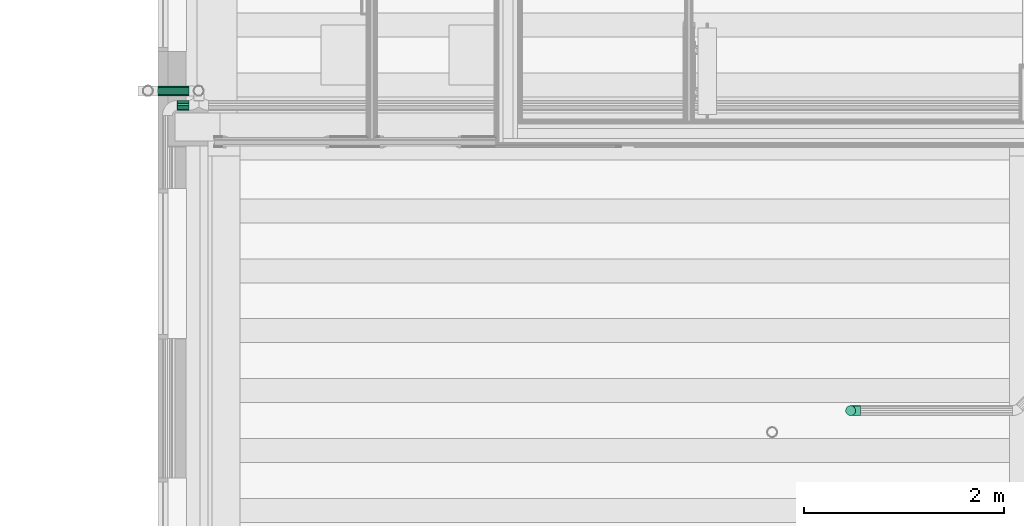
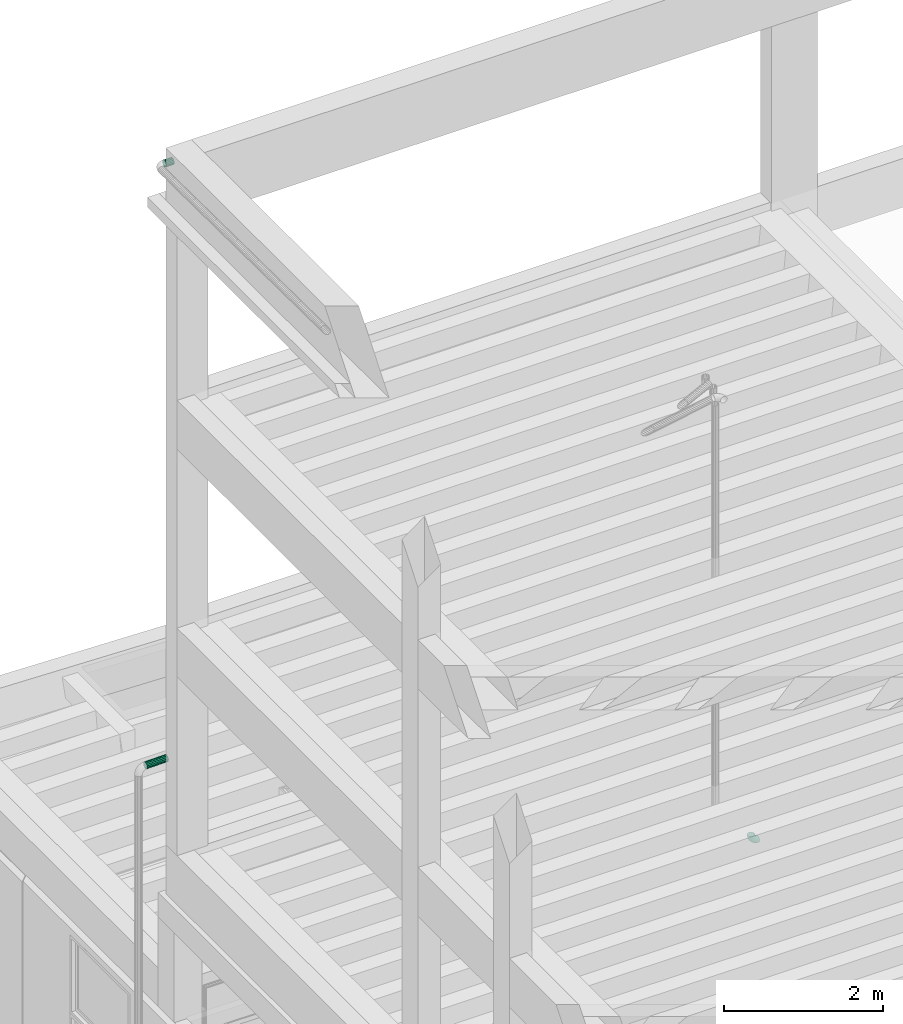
# One storey, part 76 of 106: 2 flow segments, 1 flow fitting.
"""IFC2X3 building model written with IfcOpenShell, lengths in metres."""

from ifc_helpers import new_model, entity, si_unit, converted_unit, derived_unit, money_unit, direction, frame, origin_with_axes, place, context, subcontext, project, spatial, open_shell, faceted_brep, surface_model, material, type_object, element, save


model = new_model("IFC2X3")

# Units and contexts
model_context = context("Model", 3, precision=1e-05, world=origin_with_axes(), true_north=direction((0.0, 1.0)))
body_context = subcontext(model_context, "Body", "Model", "MODEL_VIEW", scale=1.0)
ifc_project = project(units=[si_unit("LENGTHUNIT", "METRE"), si_unit("AREAUNIT", "SQUARE_METRE"), si_unit("VOLUMEUNIT", "CUBIC_METRE"), si_unit("ABSORBEDDOSEUNIT", "GRAY"), si_unit("AMOUNTOFSUBSTANCEUNIT", "MOLE"), si_unit("DOSEEQUIVALENTUNIT", "SIEVERT"), si_unit("ELECTRICCAPACITANCEUNIT", "FARAD"), si_unit("ELECTRICCHARGEUNIT", "COULOMB"), si_unit("ELECTRICCONDUCTANCEUNIT", "SIEMENS"), si_unit("ELECTRICCURRENTUNIT", "AMPERE"), si_unit("ELECTRICRESISTANCEUNIT", "OHM"), si_unit("ELECTRICVOLTAGEUNIT", "VOLT"), si_unit("ENERGYUNIT", "JOULE"), si_unit("FORCEUNIT", "NEWTON"), si_unit("FREQUENCYUNIT", "HERTZ"), si_unit("ILLUMINANCEUNIT", "LUX"), si_unit("INDUCTANCEUNIT", "HENRY"), si_unit("LUMINOUSFLUXUNIT", "LUMEN"), si_unit("LUMINOUSINTENSITYUNIT", "CANDELA"), si_unit("MAGNETICFLUXDENSITYUNIT", "TESLA"), si_unit("MAGNETICFLUXUNIT", "WEBER"), si_unit("MASSUNIT", "GRAM"), converted_unit("PLANEANGLEUNIT", "degree", entity("IfcReal", 0.0174532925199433), si_unit("PLANEANGLEUNIT", "RADIAN"), dimensions=[0, 0, 0, 0, 0, 0, 0]), si_unit("POWERUNIT", "WATT"), si_unit("PRESSUREUNIT", "PASCAL"), si_unit("RADIOACTIVITYUNIT", "BECQUEREL"), si_unit("SOLIDANGLEUNIT", "STERADIAN"), si_unit("THERMODYNAMICTEMPERATUREUNIT", "KELVIN"), si_unit("TIMEUNIT", "SECOND"), derived_unit("ACCELERATIONUNIT", [(si_unit("LENGTHUNIT", "METRE"), 1), (si_unit("TIMEUNIT", "SECOND"), -2)]), derived_unit("ANGULARVELOCITYUNIT", [(converted_unit("PLANEANGLEUNIT", "degree", entity("IfcReal", 0.0174532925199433), si_unit("PLANEANGLEUNIT", "RADIAN"), dimensions=[0, 0, 0, 0, 0, 0, 0]), 1), (si_unit("TIMEUNIT", "SECOND"), -1)]), derived_unit("CURVATUREUNIT", [(converted_unit("PLANEANGLEUNIT", "degree", entity("IfcReal", 0.0174532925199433), si_unit("PLANEANGLEUNIT", "RADIAN"), dimensions=[0, 0, 0, 0, 0, 0, 0]), 1), (si_unit("LENGTHUNIT", "METRE"), -1)]), derived_unit("DYNAMICVISCOSITYUNIT", [(si_unit("PRESSUREUNIT", "PASCAL"), 1), (si_unit("TIMEUNIT", "SECOND"), 1)]), derived_unit("HEATFLUXDENSITYUNIT", [(si_unit("POWERUNIT", "WATT"), 1), (si_unit("LENGTHUNIT", "METRE"), -2)]), derived_unit("HEATINGVALUEUNIT", [(si_unit("ENERGYUNIT", "JOULE"), 1), (si_unit("MASSUNIT", "GRAM"), -1)]), derived_unit("INTEGERCOUNTRATEUNIT", [(si_unit("TIMEUNIT", "SECOND"), -1)]), derived_unit("IONCONCENTRATIONUNIT", [(si_unit("MASSUNIT", "GRAM"), 1), (si_unit("VOLUMEUNIT", "CUBIC_METRE"), -1)]), derived_unit("ISOTHERMALMOISTURECAPACITYUNIT", [(si_unit("VOLUMEUNIT", "CUBIC_METRE"), 1), (si_unit("MASSUNIT", "GRAM"), -1)]), derived_unit("KINEMATICVISCOSITYUNIT", [(si_unit("AREAUNIT", "SQUARE_METRE"), 1), (si_unit("TIMEUNIT", "SECOND"), -1)]), derived_unit("LINEARFORCEUNIT", [(si_unit("FORCEUNIT", "NEWTON"), 1), (si_unit("LENGTHUNIT", "METRE"), -1)]), derived_unit("LINEARMOMENTUNIT", [(si_unit("FORCEUNIT", "NEWTON"), 1), (si_unit("LENGTHUNIT", "METRE"), -1)]), derived_unit("LINEARSTIFFNESSUNIT", [(si_unit("FORCEUNIT", "NEWTON"), 1), (si_unit("LENGTHUNIT", "METRE"), -1)]), derived_unit("LINEARVELOCITYUNIT", [(si_unit("LENGTHUNIT", "METRE"), 1), (si_unit("TIMEUNIT", "SECOND"), -1)]), derived_unit("LUMINOUSINTENSITYDISTRIBUTIONUNIT", [(si_unit("LUMINOUSINTENSITYUNIT", "CANDELA"), 1), (si_unit("LUMINOUSFLUXUNIT", "LUMEN"), -1)]), derived_unit("MASSDENSITYUNIT", [(si_unit("MASSUNIT", "GRAM"), 1), (si_unit("VOLUMEUNIT", "CUBIC_METRE"), -1)]), derived_unit("MASSFLOWRATEUNIT", [(si_unit("MASSUNIT", "GRAM"), 1), (si_unit("TIMEUNIT", "SECOND"), -1)]), derived_unit("MASSPERLENGTHUNIT", [(si_unit("MASSUNIT", "GRAM"), 1), (si_unit("LENGTHUNIT", "METRE"), -1)]), derived_unit("MODULUSOFELASTICITYUNIT", [(si_unit("FORCEUNIT", "NEWTON"), 1), (si_unit("AREAUNIT", "SQUARE_METRE"), -1)]), derived_unit("MODULUSOFLINEARSUBGRADEREACTIONUNIT", [(si_unit("FORCEUNIT", "NEWTON"), 1), (si_unit("LENGTHUNIT", "METRE"), -2)]), derived_unit("MODULUSOFROTATIONALSUBGRADEREACTIONUNIT", [(si_unit("FORCEUNIT", "NEWTON"), 1), (si_unit("LENGTHUNIT", "METRE"), 1)]), derived_unit("MODULUSOFSUBGRADEREACTIONUNIT", [(si_unit("FORCEUNIT", "NEWTON"), 1), (si_unit("VOLUMEUNIT", "CUBIC_METRE"), -1)]), derived_unit("MOISTUREDIFFUSIVITYUNIT", [(si_unit("VOLUMEUNIT", "CUBIC_METRE"), 1), (si_unit("TIMEUNIT", "SECOND"), -1)]), derived_unit("MOLECULARWEIGHTUNIT", [(si_unit("MASSUNIT", "GRAM"), 1), (si_unit("AMOUNTOFSUBSTANCEUNIT", "MOLE"), -1)]), derived_unit("PLANARFORCEUNIT", [(si_unit("FORCEUNIT", "NEWTON"), 1), (si_unit("LENGTHUNIT", "METRE"), -2)]), derived_unit("ROTATIONALFREQUENCYUNIT", [(si_unit("TIMEUNIT", "SECOND"), -1)]), derived_unit("ROTATIONALMASSUNIT", [(si_unit("MASSUNIT", "GRAM"), 1), (si_unit("LENGTHUNIT", "METRE"), 2)]), derived_unit("ROTATIONALSTIFFNESSUNIT", [(si_unit("FORCEUNIT", "NEWTON"), 1), (si_unit("LENGTHUNIT", "METRE"), 1), (converted_unit("PLANEANGLEUNIT", "degree", entity("IfcReal", 0.0174532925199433), si_unit("PLANEANGLEUNIT", "RADIAN"), dimensions=[0, 0, 0, 0, 0, 0, 0]), -1)]), derived_unit("SECTIONAREAINTEGRALUNIT", [(si_unit("LENGTHUNIT", "METRE"), 5)]), derived_unit("SECTIONMODULUSUNIT", [(si_unit("LENGTHUNIT", "METRE"), 3)]), derived_unit("SHEARMODULUSUNIT", [(si_unit("FORCEUNIT", "NEWTON"), 1), (si_unit("AREAUNIT", "SQUARE_METRE"), -1)]), derived_unit("SOUNDPOWERUNIT", [(si_unit("ENERGYUNIT", "JOULE"), 1), (si_unit("TIMEUNIT", "SECOND"), -1)]), derived_unit("SPECIFICHEATCAPACITYUNIT", [(si_unit("FORCEUNIT", "NEWTON"), 1), (si_unit("MASSUNIT", "GRAM"), -1), (si_unit("THERMODYNAMICTEMPERATUREUNIT", "KELVIN"), -1)]), derived_unit("TEMPERATUREGRADIENTUNIT", [(si_unit("THERMODYNAMICTEMPERATUREUNIT", "KELVIN"), 1), (si_unit("LENGTHUNIT", "METRE"), -1)]), derived_unit("THERMALADMITTANCEUNIT", [(si_unit("POWERUNIT", "WATT"), 1), (si_unit("AREAUNIT", "SQUARE_METRE"), -1), (si_unit("THERMODYNAMICTEMPERATUREUNIT", "KELVIN"), -1)]), derived_unit("THERMALCONDUCTANCEUNIT", [(si_unit("POWERUNIT", "WATT"), 1), (si_unit("LENGTHUNIT", "METRE"), -1), (si_unit("THERMODYNAMICTEMPERATUREUNIT", "KELVIN"), -1)]), derived_unit("THERMALEXPANSIONCOEFFICIENTUNIT", [(si_unit("THERMODYNAMICTEMPERATUREUNIT", "KELVIN"), -1)]), derived_unit("THERMALRESISTANCEUNIT", [(si_unit("AREAUNIT", "SQUARE_METRE"), 1), (si_unit("POWERUNIT", "WATT"), -1)]), derived_unit("THERMALTRANSMITTANCEUNIT", [(si_unit("POWERUNIT", "WATT"), 1), (si_unit("AREAUNIT", "SQUARE_METRE"), -1), (si_unit("THERMODYNAMICTEMPERATUREUNIT", "KELVIN"), -1)]), derived_unit("TORQUEUNIT", [(si_unit("FORCEUNIT", "NEWTON"), 1), (si_unit("LENGTHUNIT", "METRE"), 1)]), derived_unit("VAPORPERMEABILITYUNIT", [(si_unit("MASSUNIT", "GRAM"), 1), (si_unit("TIMEUNIT", "SECOND"), -1)]), derived_unit("VOLUMETRICFLOWRATEUNIT", [(si_unit("VOLUMEUNIT", "CUBIC_METRE"), 1), (si_unit("TIMEUNIT", "SECOND"), -1)]), derived_unit("WARPINGCONSTANTUNIT", [(si_unit("LENGTHUNIT", "METRE"), 6)]), derived_unit("WARPINGMOMENTUNIT", [(si_unit("FORCEUNIT", "NEWTON"), 1), (si_unit("LENGTHUNIT", "METRE"), 2)]), money_unit("GBP")], contexts=[model_context])

# Site, building, storey
site_placement = place(None, origin_with_axes())
site = spatial("IfcSite", under=ifc_project, at=site_placement, Name="Site", CompositionType="ELEMENT")
building_placement = place(site_placement, origin_with_axes())
building = spatial("IfcBuilding", under=site, at=building_placement, Name="Building01", CompositionType="ELEMENT")
storey_placement = place(building_placement, origin_with_axes())
storey = spatial("IfcBuildingStorey", under=building, at=storey_placement, Name="GF", CompositionType="ELEMENT", Elevation=0.0)

# Flow segments
ifc_material = material(Name="M_BSUK_ColdWater")
pipe_segment_type = type_object("IfcPipeSegmentType", Name="M-BmpStraightpipe-DefaultPipe", PredefinedType="RIGIDSEGMENT")
flow_segment_1_placement = place(storey_placement, frame((0.310496, 14.95, 6.24673), z_axis=(0.0, -1.0, 0.0), x_axis=(-0.99980004, 0.0, -0.01999682)))
element("IfcFlowSegment", 1, at=flow_segment_1_placement, inside=storey, type_object=pipe_segment_type, material=ifc_material, Name="M-BmpStraightpipe-DefaultPipe", ObjectType="M-BmpStraightpipe-DefaultPipe", context=body_context, shape_type="Brep", body=[
    faceted_brep([(0.31195, 0.0, -0.05), (0.0, 0.0, -0.05), (0.0, 0.019134, -0.046194), (0.31195, 0.019134, -0.046194), (0.0, 0.035355, -0.035355), (0.31195, 0.035355, -0.035355), (0.0, 0.046194, -0.019134), (0.31195, 0.046194, -0.019134), (0.0, 0.05, 0.0), (0.31195, 0.05, 0.0), (0.0, 0.046194, 0.019134), (0.31195, 0.046194, 0.019134), (0.0, 0.035355, 0.035355), (0.31195, 0.035355, 0.035355), (0.0, 0.019134, 0.046194), (0.31195, 0.019134, 0.046194), (0.0, 0.0, 0.05), (0.31195, 0.0, 0.05), (0.0, -0.019134, 0.046194), (0.31195, -0.019134, 0.046194), (0.0, -0.035355, 0.035355), (0.31195, -0.035355, 0.035355), (0.0, -0.046194, 0.019134), (0.31195, -0.046194, 0.019134), (0.0, -0.05, 0.0), (0.31195, -0.05, 0.0), (0.0, -0.046194, -0.019134), (0.31195, -0.046194, -0.019134), (0.0, -0.035355, -0.035355), (0.31195, -0.035355, -0.035355), (0.0, -0.019134, -0.046194), (0.31195, -0.019134, -0.046194)], [[[0, 1, 2, 3]], [[3, 2, 4, 5]], [[5, 4, 6, 7]], [[7, 6, 8, 9]], [[9, 8, 10, 11]], [[11, 10, 12, 13]], [[13, 12, 14, 15]], [[15, 14, 16, 17]], [[17, 16, 18, 19]], [[19, 18, 20, 21]], [[21, 20, 22, 23]], [[23, 22, 24, 25]], [[25, 24, 26, 27]], [[27, 26, 28, 29]], [[29, 28, 30, 31]], [[31, 30, 1, 0]]]),
])
flow_segment_2_placement = place(storey_placement, frame((0.310496, 14.80601, 15.486015), z_axis=(0.0, 1.0, 0.0), x_axis=(0.99994498, 0.0, -0.01049024)))
element("IfcFlowSegment", 2, at=flow_segment_2_placement, inside=storey, type_object=pipe_segment_type, material=ifc_material, Name="M-BmpStraightpipe-DefaultPipe", ObjectType="M-BmpStraightpipe-DefaultPipe", context=body_context, shape_type="Brep", body=[
    faceted_brep([(-0.117502, 0.0, -0.05), (0.0, 0.0, -0.05), (0.0, -0.019134, -0.046194), (-0.117502, -0.019134, -0.046194), (0.0, -0.035355, -0.035355), (-0.117502, -0.035355, -0.035355), (0.0, -0.046194, -0.019134), (-0.117502, -0.046194, -0.019134), (0.0, -0.05, 0.0), (-0.117502, -0.05, 0.0), (0.0, -0.046194, 0.019134), (-0.117502, -0.046194, 0.019134), (0.0, -0.035355, 0.035355), (-0.117502, -0.035355, 0.035355), (0.0, -0.019134, 0.046194), (-0.117502, -0.019134, 0.046194), (0.0, 0.0, 0.05), (-0.117502, 0.0, 0.05), (0.0, 0.019134, 0.046194), (-0.117502, 0.019134, 0.046194), (0.0, 0.035355, 0.035355), (-0.117502, 0.035355, 0.035355), (0.0, 0.046194, 0.019134), (-0.117502, 0.046194, 0.019134), (0.0, 0.05, 0.0), (-0.117502, 0.05, 0.0), (0.0, 0.046194, -0.019134), (-0.117502, 0.046194, -0.019134), (0.0, 0.035355, -0.035355), (-0.117502, 0.035355, -0.035355), (0.0, 0.019134, -0.046194), (-0.117502, 0.019134, -0.046194)], [[[0, 1, 2, 3]], [[3, 2, 4, 5]], [[5, 4, 6, 7]], [[7, 6, 8, 9]], [[9, 8, 10, 11]], [[11, 10, 12, 13]], [[13, 12, 14, 15]], [[15, 14, 16, 17]], [[17, 16, 18, 19]], [[19, 18, 20, 21]], [[21, 20, 22, 23]], [[23, 22, 24, 25]], [[25, 24, 26, 27]], [[27, 26, 28, 29]], [[29, 28, 30, 31]], [[31, 30, 1, 0]]]),
])

# Space
space_placement = place(storey_placement, frame((3.380525, 16.69365, 0.216987), z_axis=(0.0, 0.0, 1.0), x_axis=(-1.0, 0.0, 0.0)))
space = spatial("IfcSpace", under=storey, at=space_placement, Name="0", CompositionType="ELEMENT", InteriorOrExteriorSpace="NOTDEFINED")

# Flow fitting
pipe_fitting_type = type_object("IfcPipeFittingType", Name="M-BmpElbow-DefaultElbow", PredefinedType="BEND")
flow_fitting_placement = place(storey_placement, frame((6.933176, 11.75, 4.697927), z_axis=(-1.0, 0.0, 0.0), x_axis=(0.0, 0.0, -1.0)))
element("IfcFlowFitting", 3, at=flow_fitting_placement, inside=space, type_object=pipe_fitting_type, material=ifc_material, Name="M-BmpElbow-DefaultElbow", ObjectType="M-BmpElbow-DefaultElbow", context=body_context, shape_type="SurfaceModel", body=[
    surface_model("IfcShellBasedSurfaceModel", [(0.008048, -0.01349, -0.048774), (0.0, -0.01349, -0.048146), (0.0, 0.0, -0.05), (0.00776, 0.0, -0.050606), (0.0159, -0.01349, -0.050644), (0.015332, 0.0, -0.052409), (0.023368, -0.01349, -0.05371), (0.022532, 0.0, -0.055365), (0.030269, -0.01349, -0.057897), (0.029187, 0.0, -0.059403), (0.036437, -0.01349, -0.063105), (0.035134, 0.0, -0.064424), (0.041721, -0.01349, -0.069207), (0.040229, 0.0, -0.070308), (0.045995, -0.01349, -0.076055), (0.04435, 0.0, -0.076912), (0.049154, -0.01349, -0.083484), (0.047396, 0.0, -0.084074), (0.051121, -0.01349, -0.091313), (0.049293, 0.0, -0.091623), (0.05185, -0.01349, -0.099352), (0.049996, 0.0, -0.099375), (0.00889, -0.025979, -0.043415), (0.0, -0.025979, -0.042721), (0.017564, -0.025979, -0.04548), (0.025813, -0.025979, -0.048867), (0.033436, -0.025979, -0.053493), (0.040248, -0.025979, -0.059245), (0.046086, -0.025979, -0.065986), (0.050807, -0.025979, -0.07355), (0.054296, -0.025979, -0.081756), (0.056469, -0.025979, -0.090404), (0.057275, -0.025979, -0.099284), (0.010223, -0.036542, -0.034926), (0.0, -0.036542, -0.034128), (0.020199, -0.036542, -0.037301), (0.029685, -0.036542, -0.041196), (0.038452, -0.036542, -0.046515), (0.046287, -0.036542, -0.053131), (0.053, -0.036542, -0.060883), (0.058429, -0.036542, -0.069582), (0.062442, -0.036542, -0.079019), (0.064941, -0.036542, -0.088964), (0.065867, -0.036542, -0.099177), (0.01195, -0.044394, -0.023936), (0.0, -0.044394, -0.023003), (0.02361, -0.044394, -0.026712), (0.034698, -0.044394, -0.031265), (0.044946, -0.044394, -0.037483), (0.054104, -0.044394, -0.045216), (0.061951, -0.044394, -0.054277), (0.068296, -0.044394, -0.064445), (0.072987, -0.044394, -0.075476), (0.075908, -0.044394, -0.0871), (0.076991, -0.044394, -0.099038), (0.013941, -0.048954, -0.011261), (0.0, -0.048954, -0.010173), (0.027544, -0.048954, -0.0145), (0.04048, -0.048954, -0.019811), (0.052435, -0.048954, -0.027065), (0.063119, -0.048954, -0.036087), (0.072274, -0.048954, -0.046657), (0.079677, -0.048954, -0.058521), (0.085149, -0.048954, -0.071389), (0.088558, -0.048954, -0.084951), (0.08982, -0.048954, -0.098877), (0.01605, -0.049883, 0.002159), (0.0, -0.049883, 0.003412), (0.03171, -0.049883, -0.00157), (0.046602, -0.049883, -0.007684), (0.060365, -0.049883, -0.016035), (0.072665, -0.049883, -0.026421), (0.083204, -0.049883, -0.03859), (0.091727, -0.049883, -0.052247), (0.098026, -0.049883, -0.067062), (0.101951, -0.049883, -0.082675), (0.103404, -0.049883, -0.098707), (0.018119, -0.047113, 0.015329), (0.0, -0.047113, 0.016744), (0.035798, -0.047113, 0.01112), (0.05261, -0.047113, 0.004218), (0.068147, -0.047113, -0.00521), (0.082033, -0.047113, -0.016935), (0.093931, -0.047113, -0.030673), (0.103552, -0.047113, -0.046091), (0.110664, -0.047113, -0.062816), (0.115094, -0.047113, -0.080441), (0.116735, -0.047113, -0.098541), (0.019995, -0.040848, 0.027273), (0.0, -0.040848, 0.028834), (0.039505, -0.040848, 0.022628), (0.058059, -0.040848, 0.01501), (0.075205, -0.040848, 0.004606), (0.090528, -0.040848, -0.008333), (0.103658, -0.040848, -0.023494), (0.114276, -0.040848, -0.040508), (0.122124, -0.040848, -0.058965), (0.127013, -0.040848, -0.078416), (0.128824, -0.040848, -0.09839), (0.021539, -0.031554, 0.037104), (0.0, -0.031554, 0.038786), (0.042557, -0.031554, 0.0321), (0.062543, -0.031554, 0.023894), (0.081014, -0.031554, 0.012686), (0.097521, -0.031554, -0.001252), (0.111665, -0.031554, -0.017584), (0.123103, -0.031554, -0.035913), (0.131557, -0.031554, -0.055795), (0.136824, -0.031554, -0.076749), (0.138775, -0.031554, -0.098265), (0.022638, -0.01992, 0.044093), (0.0, -0.01992, 0.045861), (0.044726, -0.01992, 0.038834), (0.065732, -0.01992, 0.03021), (0.085144, -0.01992, 0.018431), (0.102492, -0.01992, 0.003782), (0.117357, -0.01992, -0.013383), (0.129378, -0.01992, -0.032646), (0.138264, -0.01992, -0.053542), (0.143799, -0.01992, -0.075563), (0.145849, -0.01992, -0.098177), (0.023208, -0.006808, 0.047722), (0.0, -0.006808, 0.049534), (0.045853, -0.006808, 0.042331), (0.067387, -0.006808, 0.03349), (0.087288, -0.006808, 0.021414), (0.105074, -0.006808, 0.006395), (0.120313, -0.006808, -0.011201), (0.132637, -0.006808, -0.03095), (0.141746, -0.006808, -0.052372), (0.147421, -0.006808, -0.074948), (0.149523, -0.006808, -0.098131), (0.023208, 0.006808, 0.047722), (0.0, 0.006808, 0.049534), (0.045853, 0.006808, 0.042331), (0.067387, 0.006808, 0.03349), (0.087288, 0.006808, 0.021414), (0.105074, 0.006808, 0.006395), (0.120313, 0.006808, -0.011201), (0.132637, 0.006808, -0.03095), (0.141746, 0.006808, -0.052372), (0.147421, 0.006808, -0.074948), (0.149523, 0.006808, -0.098131), (0.022638, 0.01992, 0.044093), (0.0, 0.01992, 0.045861), (0.044726, 0.01992, 0.038834), (0.065732, 0.01992, 0.03021), (0.085144, 0.01992, 0.018431), (0.102492, 0.01992, 0.003782), (0.117357, 0.01992, -0.013383), (0.129378, 0.01992, -0.032646), (0.138264, 0.01992, -0.053542), (0.143799, 0.01992, -0.075563), (0.145849, 0.01992, -0.098177), (0.021539, 0.031554, 0.037104), (0.0, 0.031554, 0.038786), (0.042557, 0.031554, 0.0321), (0.062543, 0.031554, 0.023894), (0.081014, 0.031554, 0.012686), (0.097521, 0.031554, -0.001252), (0.111665, 0.031554, -0.017584), (0.123103, 0.031554, -0.035913), (0.131557, 0.031554, -0.055795), (0.136824, 0.031554, -0.076749), (0.138775, 0.031554, -0.098265), (0.019995, 0.040848, 0.027273), (0.0, 0.040848, 0.028834), (0.039505, 0.040848, 0.022628), (0.058059, 0.040848, 0.01501), (0.075205, 0.040848, 0.004606), (0.090528, 0.040848, -0.008333), (0.103658, 0.040848, -0.023494), (0.114276, 0.040848, -0.040508), (0.122124, 0.040848, -0.058965), (0.127013, 0.040848, -0.078416), (0.128824, 0.040848, -0.09839), (0.018119, 0.047113, 0.015329), (0.0, 0.047113, 0.016744), (0.035798, 0.047113, 0.01112), (0.05261, 0.047113, 0.004218), (0.068147, 0.047113, -0.00521), (0.082033, 0.047113, -0.016935), (0.093931, 0.047113, -0.030673), (0.103552, 0.047113, -0.046091), (0.110664, 0.047113, -0.062816), (0.115094, 0.047113, -0.080441), (0.116735, 0.047113, -0.098541), (0.01605, 0.049883, 0.002159), (0.0, 0.049883, 0.003412), (0.03171, 0.049883, -0.00157), (0.046602, 0.049883, -0.007684), (0.060365, 0.049883, -0.016035), (0.072665, 0.049883, -0.026421), (0.083204, 0.049883, -0.03859), (0.091727, 0.049883, -0.052247), (0.098026, 0.049883, -0.067062), (0.101951, 0.049883, -0.082675), (0.103404, 0.049883, -0.098707), (0.013941, 0.048954, -0.011261), (0.0, 0.048954, -0.010173), (0.027544, 0.048954, -0.0145), (0.04048, 0.048954, -0.019811), (0.052435, 0.048954, -0.027065), (0.063119, 0.048954, -0.036087), (0.072274, 0.048954, -0.046657), (0.079677, 0.048954, -0.058521), (0.085149, 0.048954, -0.071389), (0.088558, 0.048954, -0.084951), (0.08982, 0.048954, -0.098877), (0.01195, 0.044394, -0.023936), (0.0, 0.044394, -0.023003), (0.02361, 0.044394, -0.026712), (0.034698, 0.044394, -0.031265), (0.044946, 0.044394, -0.037483), (0.054104, 0.044394, -0.045216), (0.061951, 0.044394, -0.054277), (0.068296, 0.044394, -0.064445), (0.072987, 0.044394, -0.075476), (0.075908, 0.044394, -0.0871), (0.076991, 0.044394, -0.099038), (0.010223, 0.036542, -0.034926), (0.0, 0.036542, -0.034128), (0.020199, 0.036542, -0.037301), (0.029685, 0.036542, -0.041196), (0.038452, 0.036542, -0.046515), (0.046287, 0.036542, -0.053131), (0.053, 0.036542, -0.060883), (0.058429, 0.036542, -0.069582), (0.062442, 0.036542, -0.079019), (0.064941, 0.036542, -0.088964), (0.065867, 0.036542, -0.099177), (0.00889, 0.025979, -0.043415), (0.0, 0.025979, -0.042721), (0.017564, 0.025979, -0.04548), (0.025813, 0.025979, -0.048867), (0.033436, 0.025979, -0.053493), (0.040248, 0.025979, -0.059245), (0.046086, 0.025979, -0.065986), (0.050807, 0.025979, -0.07355), (0.054296, 0.025979, -0.081756), (0.056469, 0.025979, -0.090404), (0.057275, 0.025979, -0.099284), (0.008048, 0.01349, -0.048774), (0.0, 0.01349, -0.048146), (0.0159, 0.01349, -0.050644), (0.023368, 0.01349, -0.05371), (0.030269, 0.01349, -0.057897), (0.036437, 0.01349, -0.063105), (0.041721, 0.01349, -0.069207), (0.045995, 0.01349, -0.076055), (0.049154, 0.01349, -0.083484), (0.051121, 0.01349, -0.091313), (0.05185, 0.01349, -0.099352)], [open_shell([[[0, 1, 2, 3]], [[4, 0, 3, 5]], [[6, 4, 5, 7]], [[8, 6, 7, 9]], [[10, 8, 9, 11]], [[12, 10, 11, 13]], [[14, 12, 13, 15]], [[16, 14, 15, 17]], [[18, 16, 17, 19]], [[20, 18, 19, 21]], [[22, 23, 1, 0]], [[24, 22, 0, 4]], [[25, 24, 4, 6]], [[26, 25, 6, 8]], [[27, 26, 8, 10]], [[28, 27, 10, 12]], [[29, 28, 12, 14]], [[30, 29, 14, 16]], [[31, 30, 16, 18]], [[32, 31, 18, 20]], [[33, 34, 23, 22]], [[35, 33, 22, 24]], [[36, 35, 24, 25]], [[37, 36, 25, 26]], [[38, 37, 26, 27]], [[39, 38, 27, 28]], [[40, 39, 28, 29]], [[41, 40, 29, 30]], [[42, 41, 30, 31]], [[43, 42, 31, 32]], [[44, 45, 34, 33]], [[46, 44, 33, 35]], [[47, 46, 35, 36]], [[48, 47, 36, 37]], [[49, 48, 37, 38]], [[50, 49, 38, 39]], [[51, 50, 39, 40]], [[52, 51, 40, 41]], [[53, 52, 41, 42]], [[54, 53, 42, 43]], [[55, 56, 45, 44]], [[57, 55, 44, 46]], [[58, 57, 46, 47]], [[59, 58, 47, 48]], [[60, 59, 48, 49]], [[61, 60, 49, 50]], [[62, 61, 50, 51]], [[63, 62, 51, 52]], [[64, 63, 52, 53]], [[65, 64, 53, 54]], [[66, 67, 56, 55]], [[68, 66, 55, 57]], [[69, 68, 57, 58]], [[70, 69, 58, 59]], [[71, 70, 59, 60]], [[72, 71, 60, 61]], [[73, 72, 61, 62]], [[74, 73, 62, 63]], [[75, 74, 63, 64]], [[76, 75, 64, 65]], [[77, 78, 67, 66]], [[79, 77, 66, 68]], [[80, 79, 68, 69]], [[81, 80, 69, 70]], [[82, 81, 70, 71]], [[83, 82, 71, 72]], [[84, 83, 72, 73]], [[85, 84, 73, 74]], [[86, 85, 74, 75]], [[87, 86, 75, 76]], [[88, 89, 78, 77]], [[90, 88, 77, 79]], [[91, 90, 79, 80]], [[92, 91, 80, 81]], [[93, 92, 81, 82]], [[94, 93, 82, 83]], [[95, 94, 83, 84]], [[96, 95, 84, 85]], [[97, 96, 85, 86]], [[98, 97, 86, 87]], [[99, 100, 89, 88]], [[101, 99, 88, 90]], [[102, 101, 90, 91]], [[103, 102, 91, 92]], [[104, 103, 92, 93]], [[105, 104, 93, 94]], [[106, 105, 94, 95]], [[107, 106, 95, 96]], [[108, 107, 96, 97]], [[109, 108, 97, 98]], [[110, 111, 100, 99]], [[112, 110, 99, 101]], [[113, 112, 101, 102]], [[114, 113, 102, 103]], [[115, 114, 103, 104]], [[116, 115, 104, 105]], [[117, 116, 105, 106]], [[118, 117, 106, 107]], [[119, 118, 107, 108]], [[120, 119, 108, 109]], [[121, 122, 111, 110]], [[123, 121, 110, 112]], [[124, 123, 112, 113]], [[125, 124, 113, 114]], [[126, 125, 114, 115]], [[127, 126, 115, 116]], [[128, 127, 116, 117]], [[129, 128, 117, 118]], [[130, 129, 118, 119]], [[131, 130, 119, 120]], [[132, 133, 122, 121]], [[134, 132, 121, 123]], [[135, 134, 123, 124]], [[136, 135, 124, 125]], [[137, 136, 125, 126]], [[138, 137, 126, 127]], [[139, 138, 127, 128]], [[140, 139, 128, 129]], [[141, 140, 129, 130]], [[142, 141, 130, 131]], [[143, 144, 133, 132]], [[145, 143, 132, 134]], [[146, 145, 134, 135]], [[147, 146, 135, 136]], [[148, 147, 136, 137]], [[149, 148, 137, 138]], [[150, 149, 138, 139]], [[151, 150, 139, 140]], [[152, 151, 140, 141]], [[153, 152, 141, 142]], [[154, 155, 144, 143]], [[156, 154, 143, 145]], [[157, 156, 145, 146]], [[158, 157, 146, 147]], [[159, 158, 147, 148]], [[160, 159, 148, 149]], [[161, 160, 149, 150]], [[162, 161, 150, 151]], [[163, 162, 151, 152]], [[164, 163, 152, 153]], [[165, 166, 155, 154]], [[167, 165, 154, 156]], [[168, 167, 156, 157]], [[169, 168, 157, 158]], [[170, 169, 158, 159]], [[171, 170, 159, 160]], [[172, 171, 160, 161]], [[173, 172, 161, 162]], [[174, 173, 162, 163]], [[175, 174, 163, 164]], [[176, 177, 166, 165]], [[178, 176, 165, 167]], [[179, 178, 167, 168]], [[180, 179, 168, 169]], [[181, 180, 169, 170]], [[182, 181, 170, 171]], [[183, 182, 171, 172]], [[184, 183, 172, 173]], [[185, 184, 173, 174]], [[186, 185, 174, 175]], [[187, 188, 177, 176]], [[189, 187, 176, 178]], [[190, 189, 178, 179]], [[191, 190, 179, 180]], [[192, 191, 180, 181]], [[193, 192, 181, 182]], [[194, 193, 182, 183]], [[195, 194, 183, 184]], [[196, 195, 184, 185]], [[197, 196, 185, 186]], [[198, 199, 188, 187]], [[200, 198, 187, 189]], [[201, 200, 189, 190]], [[202, 201, 190, 191]], [[203, 202, 191, 192]], [[204, 203, 192, 193]], [[205, 204, 193, 194]], [[206, 205, 194, 195]], [[207, 206, 195, 196]], [[208, 207, 196, 197]], [[209, 210, 199, 198]], [[211, 209, 198, 200]], [[212, 211, 200, 201]], [[213, 212, 201, 202]], [[214, 213, 202, 203]], [[215, 214, 203, 204]], [[216, 215, 204, 205]], [[217, 216, 205, 206]], [[218, 217, 206, 207]], [[219, 218, 207, 208]], [[220, 221, 210, 209]], [[222, 220, 209, 211]], [[223, 222, 211, 212]], [[224, 223, 212, 213]], [[225, 224, 213, 214]], [[226, 225, 214, 215]], [[227, 226, 215, 216]], [[228, 227, 216, 217]], [[229, 228, 217, 218]], [[230, 229, 218, 219]], [[231, 232, 221, 220]], [[233, 231, 220, 222]], [[234, 233, 222, 223]], [[235, 234, 223, 224]], [[236, 235, 224, 225]], [[237, 236, 225, 226]], [[238, 237, 226, 227]], [[239, 238, 227, 228]], [[240, 239, 228, 229]], [[241, 240, 229, 230]], [[242, 243, 232, 231]], [[244, 242, 231, 233]], [[245, 244, 233, 234]], [[246, 245, 234, 235]], [[247, 246, 235, 236]], [[248, 247, 236, 237]], [[249, 248, 237, 238]], [[250, 249, 238, 239]], [[251, 250, 239, 240]], [[252, 251, 240, 241]], [[3, 2, 243, 242]], [[5, 3, 242, 244]], [[7, 5, 244, 245]], [[9, 7, 245, 246]], [[11, 9, 246, 247]], [[13, 11, 247, 248]], [[15, 13, 248, 249]], [[17, 15, 249, 250]], [[19, 17, 250, 251]], [[21, 19, 251, 252]]])]),
])

save(model, "model.ifc")
